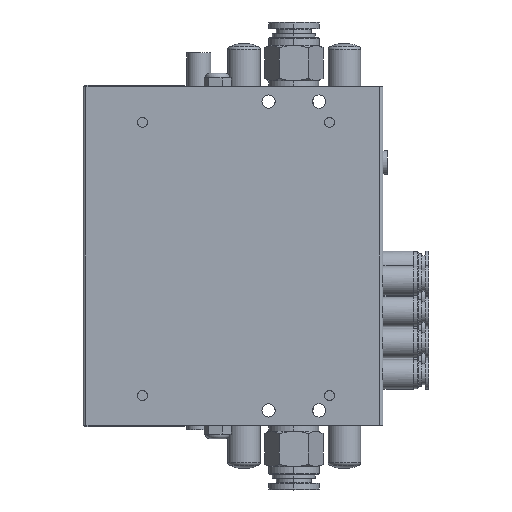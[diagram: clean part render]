
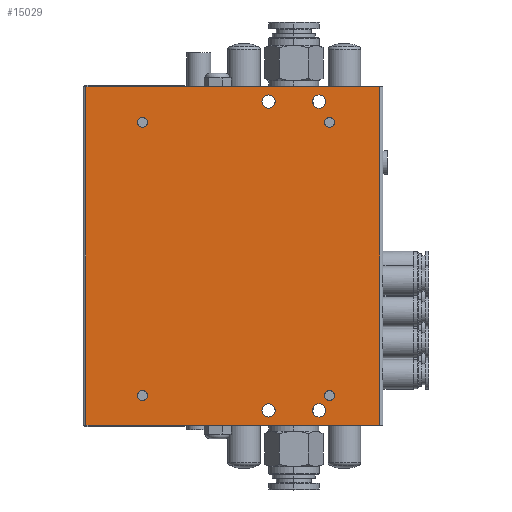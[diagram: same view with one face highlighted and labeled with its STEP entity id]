
A CAD part, front view. The second image highlights one B-rep face of the part: STEP entity #15029.
In plain terms, the highlighted planar face has unit normal (0, -1, 0).
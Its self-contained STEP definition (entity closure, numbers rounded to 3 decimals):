
#10413=FACE_BOUND('',#20703,.T.);
#10414=FACE_BOUND('',#20704,.T.);
#10415=FACE_BOUND('',#20705,.T.);
#10416=FACE_BOUND('',#20706,.T.);
#10417=FACE_BOUND('',#20707,.T.);
#10418=FACE_BOUND('',#20708,.T.);
#10419=FACE_BOUND('',#20709,.T.);
#10420=FACE_BOUND('',#20710,.T.);
#10421=FACE_BOUND('',#20711,.T.);
#12632=CIRCLE('',#50591,1.65);
#12633=CIRCLE('',#50593,1.65);
#12635=CIRCLE('',#50596,2.25);
#12636=CIRCLE('',#50598,2.25);
#12686=CIRCLE('',#50683,2.25);
#12687=CIRCLE('',#50684,2.25);
#12688=CIRCLE('',#50685,1.65);
#12689=CIRCLE('',#50686,1.65);
#15029=ADVANCED_FACE('',(#10413,#10414,#10415,#10416,#10417,#10418,#10419,
#10420,#10421),#16320,.T.);
#16320=PLANE('',#50687);
#20703=EDGE_LOOP('',(#30122,#30123,#30124,#30125));
#20704=EDGE_LOOP('',(#30126));
#20705=EDGE_LOOP('',(#30127));
#20706=EDGE_LOOP('',(#30128));
#20707=EDGE_LOOP('',(#30129));
#20708=EDGE_LOOP('',(#30130));
#20709=EDGE_LOOP('',(#30131));
#20710=EDGE_LOOP('',(#30132));
#20711=EDGE_LOOP('',(#30133));
#30122=ORIENTED_EDGE('',*,*,#39801,.T.);
#30123=ORIENTED_EDGE('',*,*,#39802,.T.);
#30124=ORIENTED_EDGE('',*,*,#39803,.T.);
#30125=ORIENTED_EDGE('',*,*,#39794,.F.);
#30126=ORIENTED_EDGE('',*,*,#39656,.F.);
#30127=ORIENTED_EDGE('',*,*,#39655,.F.);
#30128=ORIENTED_EDGE('',*,*,#39653,.F.);
#30129=ORIENTED_EDGE('',*,*,#39652,.T.);
#30130=ORIENTED_EDGE('',*,*,#39804,.F.);
#30131=ORIENTED_EDGE('',*,*,#39805,.F.);
#30132=ORIENTED_EDGE('',*,*,#39806,.F.);
#30133=ORIENTED_EDGE('',*,*,#39807,.T.);
#34693=VERTEX_POINT('',#76850);
#34694=VERTEX_POINT('',#76853);
#34696=VERTEX_POINT('',#76858);
#34697=VERTEX_POINT('',#76861);
#34804=VERTEX_POINT('',#77455);
#34805=VERTEX_POINT('',#77456);
#34810=VERTEX_POINT('',#77469);
#34811=VERTEX_POINT('',#77471);
#34812=VERTEX_POINT('',#77474);
#34813=VERTEX_POINT('',#77476);
#34814=VERTEX_POINT('',#77478);
#34815=VERTEX_POINT('',#77480);
#39652=EDGE_CURVE('',#34693,#34693,#12632,.T.);
#39653=EDGE_CURVE('',#34694,#34694,#12633,.T.);
#39655=EDGE_CURVE('',#34696,#34696,#12635,.T.);
#39656=EDGE_CURVE('',#34697,#34697,#12636,.T.);
#39794=EDGE_CURVE('',#34804,#34805,#42872,.T.);
#39801=EDGE_CURVE('',#34804,#34810,#42875,.T.);
#39802=EDGE_CURVE('',#34810,#34811,#42876,.T.);
#39803=EDGE_CURVE('',#34811,#34805,#42877,.T.);
#39804=EDGE_CURVE('',#34812,#34812,#12686,.T.);
#39805=EDGE_CURVE('',#34813,#34813,#12687,.T.);
#39806=EDGE_CURVE('',#34814,#34814,#12688,.T.);
#39807=EDGE_CURVE('',#34815,#34815,#12689,.T.);
#42872=LINE('',#77454,#45432);
#42875=LINE('',#77468,#45435);
#42876=LINE('',#77470,#45436);
#42877=LINE('',#77472,#45437);
#45432=VECTOR('',#61006,1.);
#45435=VECTOR('',#61019,1.);
#45436=VECTOR('',#61020,1.);
#45437=VECTOR('',#61021,1.);
#50591=AXIS2_PLACEMENT_3D('',#76849,#60745,#60746);
#50593=AXIS2_PLACEMENT_3D('',#76852,#60749,#60750);
#50596=AXIS2_PLACEMENT_3D('',#76857,#60755,#60756);
#50598=AXIS2_PLACEMENT_3D('',#76860,#60759,#60760);
#50683=AXIS2_PLACEMENT_3D('',#77473,#61022,#61023);
#50684=AXIS2_PLACEMENT_3D('',#77475,#61024,#61025);
#50685=AXIS2_PLACEMENT_3D('',#77477,#61026,#61027);
#50686=AXIS2_PLACEMENT_3D('',#77479,#61028,#61029);
#50687=AXIS2_PLACEMENT_3D('',#77481,#61030,#61031);
#60745=DIRECTION('',(0.,1.,0.));
#60746=DIRECTION('',(0.,0.,-1.));
#60749=DIRECTION('',(0.,-1.,0.));
#60750=DIRECTION('',(0.,0.,-1.));
#60755=DIRECTION('',(0.,-1.,0.));
#60756=DIRECTION('',(0.,0.,-1.));
#60759=DIRECTION('',(0.,-1.,0.));
#60760=DIRECTION('',(0.,0.,-1.));
#61006=DIRECTION('',(1.,0.,0.));
#61019=DIRECTION('',(0.,0.,-1.));
#61020=DIRECTION('',(1.,0.,0.));
#61021=DIRECTION('',(0.,0.,1.));
#61022=DIRECTION('',(0.,-1.,0.));
#61023=DIRECTION('',(0.,0.,-1.));
#61024=DIRECTION('',(0.,-1.,0.));
#61025=DIRECTION('',(0.,0.,-1.));
#61026=DIRECTION('',(0.,-1.,0.));
#61027=DIRECTION('',(0.,0.,-1.));
#61028=DIRECTION('',(0.,1.,0.));
#61029=DIRECTION('',(0.,0.,-1.));
#61030=DIRECTION('',(0.,-1.,0.));
#61031=DIRECTION('',(0.,0.,-1.));
#76849=CARTESIAN_POINT('',(-31.5,-23.,60.));
#76850=CARTESIAN_POINT('',(-31.5,-23.,58.35));
#76852=CARTESIAN_POINT('',(31.5,-23.,60.));
#76853=CARTESIAN_POINT('',(31.5,-23.,58.35));
#76857=CARTESIAN_POINT('',(11.,-23.,67.));
#76858=CARTESIAN_POINT('',(11.,-23.,64.75));
#76860=CARTESIAN_POINT('',(28.,-23.,67.));
#76861=CARTESIAN_POINT('',(28.,-23.,64.75));
#77454=CARTESIAN_POINT('',(52.5,-23.,72.));
#77455=CARTESIAN_POINT('',(-50.5,-23.,72.));
#77456=CARTESIAN_POINT('',(48.5,-23.,72.));
#77468=CARTESIAN_POINT('',(-50.5,-23.,-39.));
#77469=CARTESIAN_POINT('',(-50.5,-23.,-42.));
#77470=CARTESIAN_POINT('',(52.5,-23.,-42.));
#77471=CARTESIAN_POINT('',(48.5,-23.,-42.));
#77472=CARTESIAN_POINT('',(48.5,-23.,72.));
#77473=CARTESIAN_POINT('',(28.,-23.,-37.));
#77474=CARTESIAN_POINT('',(28.,-23.,-39.25));
#77475=CARTESIAN_POINT('',(11.,-23.,-37.));
#77476=CARTESIAN_POINT('',(11.,-23.,-39.25));
#77477=CARTESIAN_POINT('',(31.5,-23.,-32.));
#77478=CARTESIAN_POINT('',(31.5,-23.,-33.65));
#77479=CARTESIAN_POINT('',(-31.5,-23.,-32.));
#77480=CARTESIAN_POINT('',(-31.5,-23.,-33.65));
#77481=CARTESIAN_POINT('',(-52.5,-23.,-39.));
